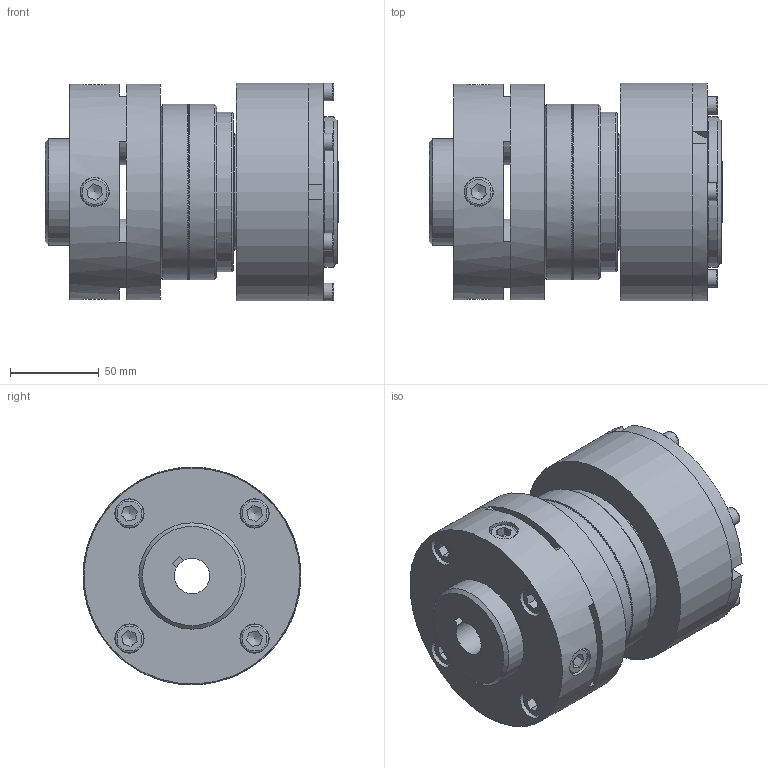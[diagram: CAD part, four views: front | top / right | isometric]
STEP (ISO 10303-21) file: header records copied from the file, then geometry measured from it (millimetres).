
FILE_DESCRIPTION(/* description */ (''),/* implementation_level */ '2;1');
FILE_NAME(/* name */ 'X:\INVENTOR\DISEGNI\03_Friz_Oleod_Pneum_Cil_Stat\03_62 DPG-N\03_62_01_01 DPG-N01\03_62_01_01 DPG-N01@STEP.stp',/* time_stamp */ '2017-10-20T12:29:50+02:00',/* author */ ('stefano'),/* organization */ (''),/* preprocessor_version */ 'ST-DEVELOPER v16.13',/* originating_system */ 'Autodesk Inventor 2018',/* authorisation */ '');
FILE_SCHEMA (('AUTOMOTIVE_DESIGN { 1 0 10303 214 3 1 1 }'));
Products named in the file (1): 03_62_01_01 DPG-N01_Substitute_1
Bounding box: 166 x 123 x 123 mm (x, y, z)
Volume: 1251650.8 mm3; surface area: 257724.4 mm2
Topology: 2 solids, 6 shells, 2722 faces, 7985 edges, 5292 vertices
Faces by surface type: plane 1993, cylinder 449, torus 217, cone 44, sphere 19
Full cylindrical faces by diameter (mm): 2.5 x2, 3 x2, 4.917 x1, 5 x2, 5.25 x3, 6 x1, 6.5 x1, 7.5 x18, 8.376 x8, 8.566 x1, 10 x6, 10.5 x1, 16 x8, 16.5 x8, 33 x2, 35 x4, 38 x1, 43 x1, 44.5 x1, 46.84 x2, 54 x1, 55 x2, 60 x3, 60.16 x2, 62 x2, 65 x1, 66 x2, 66.2 x2, 72 x3, 75 x1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
Entity records: 97922 total; most frequent: CARTESIAN_POINT 20107, DIRECTION 17653, ORIENTED_EDGE 15416, EDGE_CURVE 7708, AXIS2_PLACEMENT_3D 7653, VERTEX_POINT 5200, EDGE_LOOP 2996, ELLIPSE 2722
